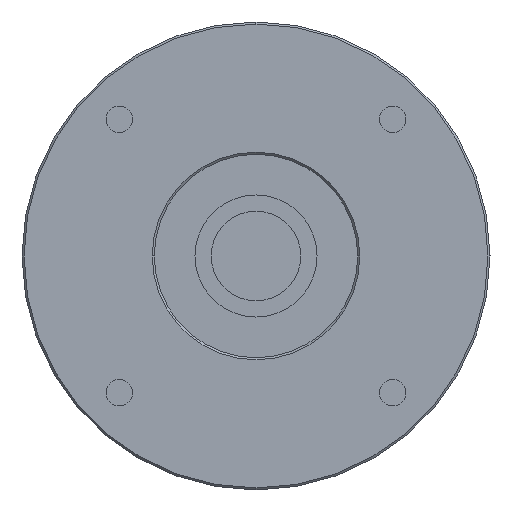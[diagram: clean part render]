
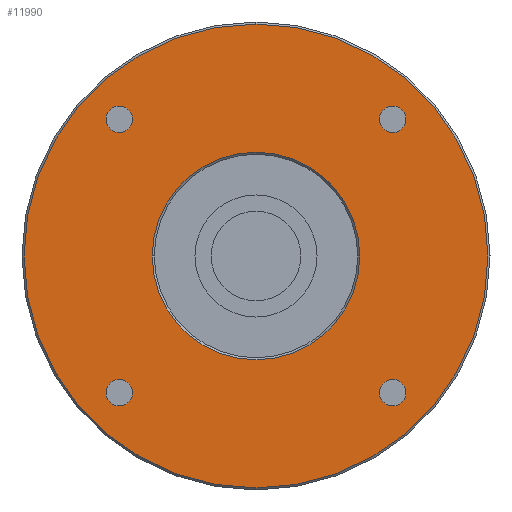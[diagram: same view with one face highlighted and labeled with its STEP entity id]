
A CAD part, left-side view. The second image highlights one B-rep face of the part: STEP entity #11990.
In plain terms, the highlighted planar face has unit normal (-1, 0, 0) as drawn and (0, 0, -1) by its records, which use the part's own axes.
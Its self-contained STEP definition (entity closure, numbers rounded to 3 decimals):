
#8800=CARTESIAN_POINT('',(-30.338,33.588,-65.6));
#8810=VERTEX_POINT('',#8800);
#8840=CARTESIAN_POINT('',(-33.588,33.588,-65.6));
#8850=DIRECTION('',(0.,0.,-1.));
#8860=DIRECTION('',(1.,0.,0.));
#8870=AXIS2_PLACEMENT_3D('',#8840,#8850,#8860);
#8880=CIRCLE('',#8870,3.25);
#8890=CARTESIAN_POINT('',(-36.838,33.588,-65.6));
#8900=VERTEX_POINT('',#8890);
#8910=EDGE_CURVE('',#8900,#8810,#8880,.T.);
#9220=CARTESIAN_POINT('',(-30.338,-33.588,-65.6));
#9230=VERTEX_POINT('',#9220);
#9260=CARTESIAN_POINT('',(-33.588,-33.588,-65.6));
#9270=DIRECTION('',(0.,0.,-1.));
#9280=DIRECTION('',(1.,0.,0.));
#9290=AXIS2_PLACEMENT_3D('',#9260,#9270,#9280);
#9300=CIRCLE('',#9290,3.25);
#9310=CARTESIAN_POINT('',(-36.838,-33.588,-65.6));
#9320=VERTEX_POINT('',#9310);
#9330=EDGE_CURVE('',#9320,#9230,#9300,.T.);
#11060=CARTESIAN_POINT('',(0.,57.,-65.6));
#11070=VERTEX_POINT('',#11060);
#11100=CARTESIAN_POINT('',(0.,0.,
-65.6));
#11110=DIRECTION('',(0.,0.,-1.));
#11120=DIRECTION('',(1.,0.,0.));
#11130=AXIS2_PLACEMENT_3D('',#11100,#11110,#11120);
#11140=CIRCLE('',#11130,57.);
#11150=CARTESIAN_POINT('',(57.,0.,-65.6));
#11160=VERTEX_POINT('',#11150);
#11170=EDGE_CURVE('',#11070,#11160,#11140,.T.);
#11190=CARTESIAN_POINT('',(0.,-57.,-65.6));
#11200=VERTEX_POINT('',#11190);
#11210=EDGE_CURVE('',#11160,#11200,#11140,.T.);
#11330=CARTESIAN_POINT('',(0.,0.,
-65.6));
#11340=DIRECTION('',(0.,0.,-1.));
#11350=DIRECTION('',(1.,0.,0.));
#11360=AXIS2_PLACEMENT_3D('',#11330,#11340,#11350);
#11370=PLANE('',#11360);
#11380=EDGE_CURVE('',#11200,#11070,#11140,.T.);
#11390=ORIENTED_EDGE('',*,*,#11380,.T.);
#11400=ORIENTED_EDGE('',*,*,#11210,.T.);
#11410=ORIENTED_EDGE('',*,*,#11170,.T.);
#11420=EDGE_LOOP('',(#11410,#11400,#11390));
#11430=FACE_OUTER_BOUND('',#11420,.T.);
#11440=CARTESIAN_POINT('',(0.,0.,
-65.6));
#11450=DIRECTION('',(0.,0.,-1.));
#11460=DIRECTION('',(1.,0.,0.));
#11470=AXIS2_PLACEMENT_3D('',#11440,#11450,#11460);
#11480=CIRCLE('',#11470,25.5);
#11490=CARTESIAN_POINT('',(25.5,0.,-65.6));
#11500=VERTEX_POINT('',#11490);
#11510=CARTESIAN_POINT('',(-25.5,0.,-65.6));
#11520=VERTEX_POINT('',#11510);
#11530=EDGE_CURVE('',#11500,#11520,#11480,.T.);
#11540=ORIENTED_EDGE('',*,*,#11530,.F.);
#11550=EDGE_CURVE('',#11520,#11500,#11480,.T.);
#11560=ORIENTED_EDGE('',*,*,#11550,.F.);
#11570=EDGE_LOOP('',(#11560,#11540));
#11580=FACE_BOUND('',#11570,.T.);
#11590=CARTESIAN_POINT('',(33.588,-33.588,-65.6));
#11600=DIRECTION('',(0.,0.,-1.));
#11610=DIRECTION('',(1.,0.,0.));
#11620=AXIS2_PLACEMENT_3D('',#11590,#11600,#11610);
#11630=CIRCLE('',#11620,3.25);
#11640=CARTESIAN_POINT('',(36.838,-33.588,-65.6));
#11650=VERTEX_POINT('',#11640);
#11660=CARTESIAN_POINT('',(30.338,-33.588,-65.6));
#11670=VERTEX_POINT('',#11660);
#11680=EDGE_CURVE('',#11650,#11670,#11630,.T.);
#11690=ORIENTED_EDGE('',*,*,#11680,.F.);
#11700=EDGE_CURVE('',#11670,#11650,#11630,.T.);
#11710=ORIENTED_EDGE('',*,*,#11700,.F.);
#11720=EDGE_LOOP('',(#11710,#11690));
#11730=FACE_BOUND('',#11720,.T.);
#11740=CARTESIAN_POINT('',(33.588,33.588,-65.6));
#11750=DIRECTION('',(0.,0.,-1.));
#11760=DIRECTION('',(1.,0.,0.));
#11770=AXIS2_PLACEMENT_3D('',#11740,#11750,#11760);
#11780=CIRCLE('',#11770,3.25);
#11790=CARTESIAN_POINT('',(36.838,33.588,-65.6));
#11800=VERTEX_POINT('',#11790);
#11810=CARTESIAN_POINT('',(30.338,33.588,-65.6));
#11820=VERTEX_POINT('',#11810);
#11830=EDGE_CURVE('',#11800,#11820,#11780,.T.);
#11840=ORIENTED_EDGE('',*,*,#11830,.F.);
#11850=EDGE_CURVE('',#11820,#11800,#11780,.T.);
#11860=ORIENTED_EDGE('',*,*,#11850,.F.);
#11870=EDGE_LOOP('',(#11860,#11840));
#11880=FACE_BOUND('',#11870,.T.);
#11890=EDGE_CURVE('',#8810,#8900,#8880,.T.);
#11900=ORIENTED_EDGE('',*,*,#11890,.F.);
#11910=ORIENTED_EDGE('',*,*,#8910,.F.);
#11920=EDGE_LOOP('',(#11910,#11900));
#11930=FACE_BOUND('',#11920,.T.);
#11940=EDGE_CURVE('',#9230,#9320,#9300,.T.);
#11950=ORIENTED_EDGE('',*,*,#11940,.F.);
#11960=ORIENTED_EDGE('',*,*,#9330,.F.);
#11970=EDGE_LOOP('',(#11960,#11950));
#11980=FACE_BOUND('',#11970,.T.);
#11990=ADVANCED_FACE('',(#11430,#11580,#11730,#11880,#11930,#11980),
#11370,.T.);
